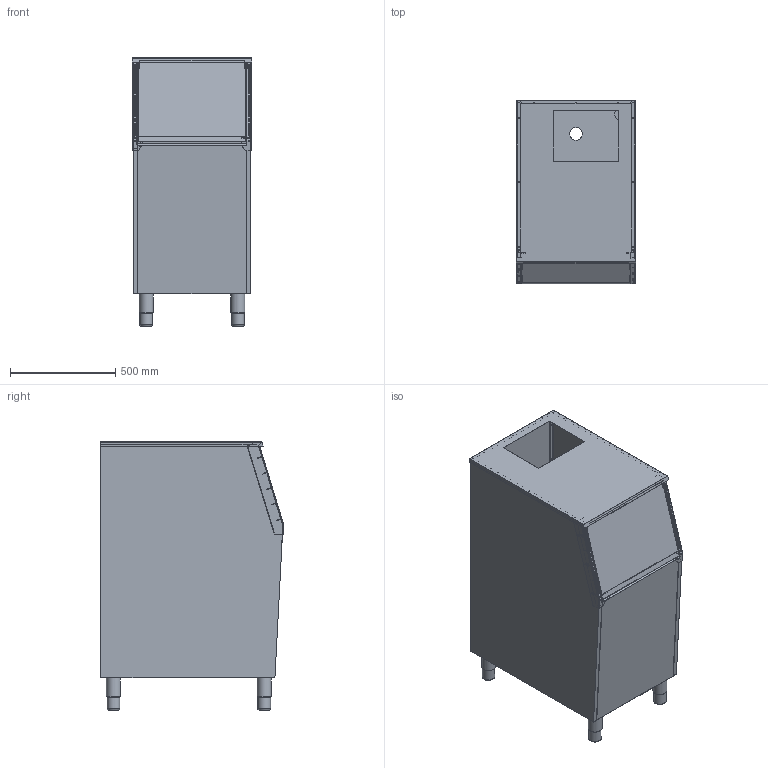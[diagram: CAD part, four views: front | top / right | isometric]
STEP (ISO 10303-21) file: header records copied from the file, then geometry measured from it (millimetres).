
FILE_DESCRIPTION(/* description */ ('Unknown'),/* implementation_level */ '2;1');
FILE_NAME(/* name */ 'S22',/* time_stamp */ '2018-04-24T08:46:29+02:00',/* author */ ('Unknown'),/* organization */ ('Unknown'),/* preprocessor_version */ 'ST-DEVELOPER v16.7',/* originating_system */ 'DEX',/* authorisation */ $);
FILE_SCHEMA (('CONFIG_CONTROL_DESIGN'));
Products named in the file (14): S22; 42-9+30846_oa_0; 42-7+S22; 42-21; 42-80+S22_oa_1; 42-79+30841_oa_2; 42-2+8282; 42-4+S22; 42-2+8283; 42-5+S22; 42-3+S22; 42-12+30851; 42-6+6643; 42-6+6644
Assembly tree (16 placements, depth 4):
  S22
    42-9+30846_oa_0
      42-7+S22
    42-21  x4
    42-80+S22_oa_1
      42-79+30841_oa_2
        42-2+8282
        42-4+S22
        42-2+8283
        42-5+S22
        42-3+S22
    42-12+30851
    42-6+6643
    42-6+6644
Bounding box: 568.2 x 873.12 x 1275.1 mm (x, y, z)
Volume: 5751997.2 mm3; surface area: 9455103.4 mm2
Topology: 17 solids, 17 shells, 1888 faces, 4979 edges, 3033 vertices
Faces by surface type: plane 878, cylinder 711, bspline 205, sphere 78, cone 12, torus 4
Full cylindrical faces by diameter (mm): 2.7 x25, 4 x8, 4.25 x42, 5 x8, 10 x4, 21 x4, 22 x3, 60 x5, 67 x4
Entity records: 59757 total; most frequent: CARTESIAN_POINT 14608, ORIENTED_EDGE 9368, DIRECTION 9169, EDGE_CURVE 4684, AXIS2_PLACEMENT_3D 3124, VERTEX_POINT 2941, LINE 2921, VECTOR 2921
